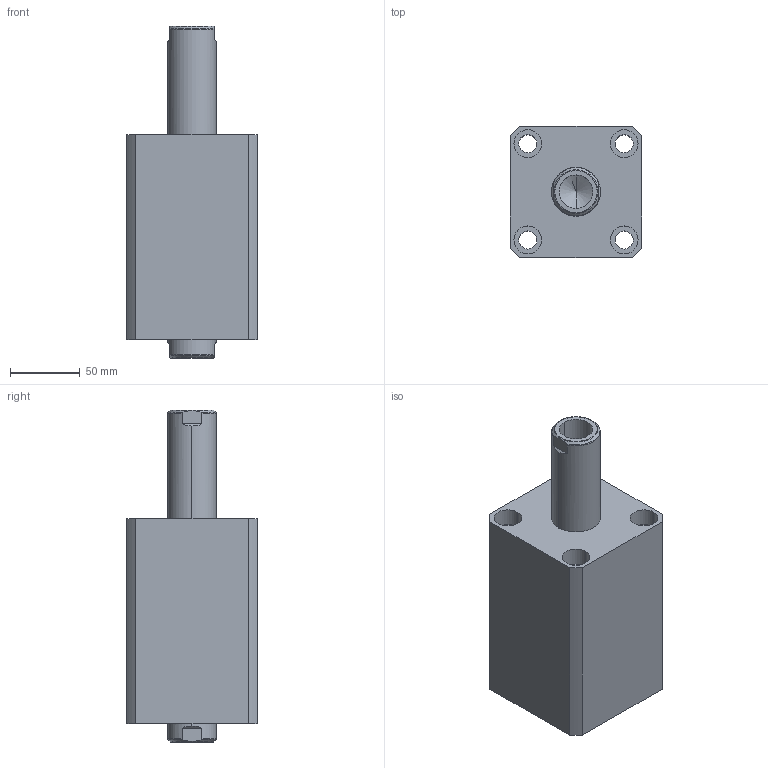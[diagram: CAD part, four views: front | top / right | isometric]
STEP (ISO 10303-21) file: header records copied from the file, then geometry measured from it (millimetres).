
FILE_DESCRIPTION (( 'STEP AP214' ), '1' );
FILE_NAME ('chtb-sw63x65n_asm.STEP', '2018-05-12T02:18:17', ( 'Windows' ), ( 'Microsoft' ), 'SwSTEP 2.0', 'SolidWorks 2015', '' );
FILE_SCHEMA (( 'AUTOMOTIVE_DESIGN' ));
Length unit declared in the file: millimetre
Products named in the file (4): CHTB-63QG; CHTB-SW63X65NHSG; CHTB-SW63X65NBT; chtb-sw63x65n_asm
Assembly tree (3 placements, depth 2):
  chtb-sw63x65n_asm
    CHTB-SW63X65NBT
    CHTB-SW63X65NHSG
    CHTB-63QG
Bounding box: 94 x 94 x 238 mm (x, y, z)
Volume: 1111408.7 mm3; surface area: 180285.3 mm2
Topology: 3 solids, 3 shells, 184 faces, 515 edges, 349 vertices
Faces by surface type: cylinder 106, plane 38, cone 16, bspline 12, torus 12
Entity records: 18385 total; most frequent: CARTESIAN_POINT 13775, ORIENTED_EDGE 1014, DIRECTION 814, EDGE_CURVE 507, VERTEX_POINT 349, AXIS2_PLACEMENT_3D 331, EDGE_LOOP 220, FACE_OUTER_BOUND 184
